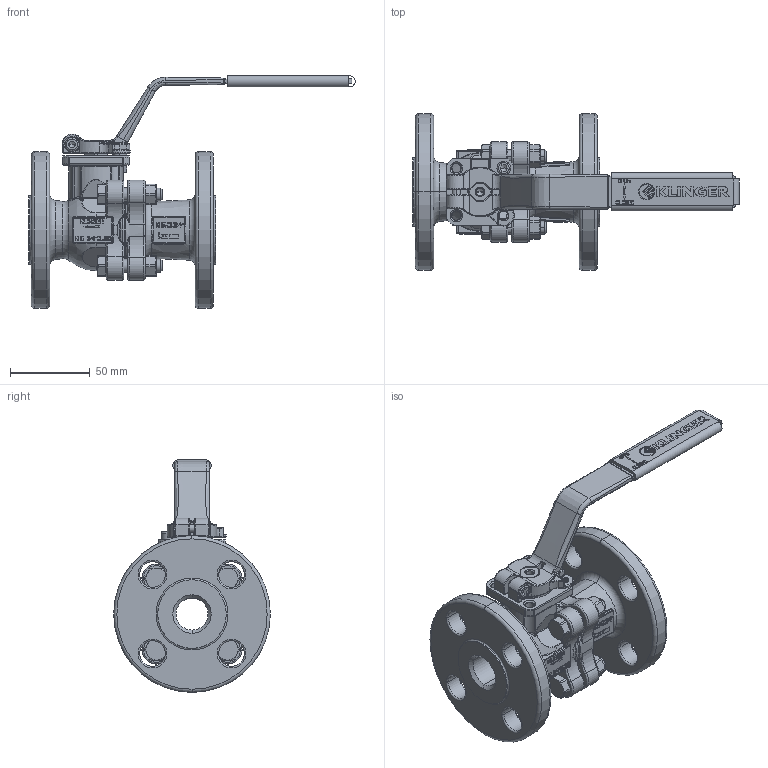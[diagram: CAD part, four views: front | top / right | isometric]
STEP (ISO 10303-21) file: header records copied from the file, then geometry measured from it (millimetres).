
FILE_DESCRIPTION((''),'2;1');
FILE_NAME('KHEFS-34VFS-34C150PKK','2015-08-10T',('mahrhauserh'),('RAND'),'PRO/ENGINEER BY PARAMETRIC TECHNOLOGY CORPORATION, 2013410','PRO/ENGINEER BY PARAMETRIC TECHNOLOGY CORPORATION, 2013410','');
FILE_SCHEMA(('CONFIG_CONTROL_DESIGN'));
Products named in the file (1): KHEFS-34VFS-34C150PKK
Bounding box: 204 x 98 x 145.55 mm (x, y, z)
Volume: 334092.5 mm3; surface area: 107713.8 mm2
Topology: 1 solids, 1 shells, 3155 faces, 8107 edges, 5072 vertices
Faces by surface type: plane 1774, cylinder 481, bspline 339, torus 320, cone 199, sphere 42
Entity records: 125153 total; most frequent: CARTESIAN_POINT 50175, ORIENTED_EDGE 16182, DIRECTION 14833, EDGE_CURVE 8091, VECTOR 5139, LINE 5139, VERTEX_POINT 5072, AXIS2_PLACEMENT_3D 4847
